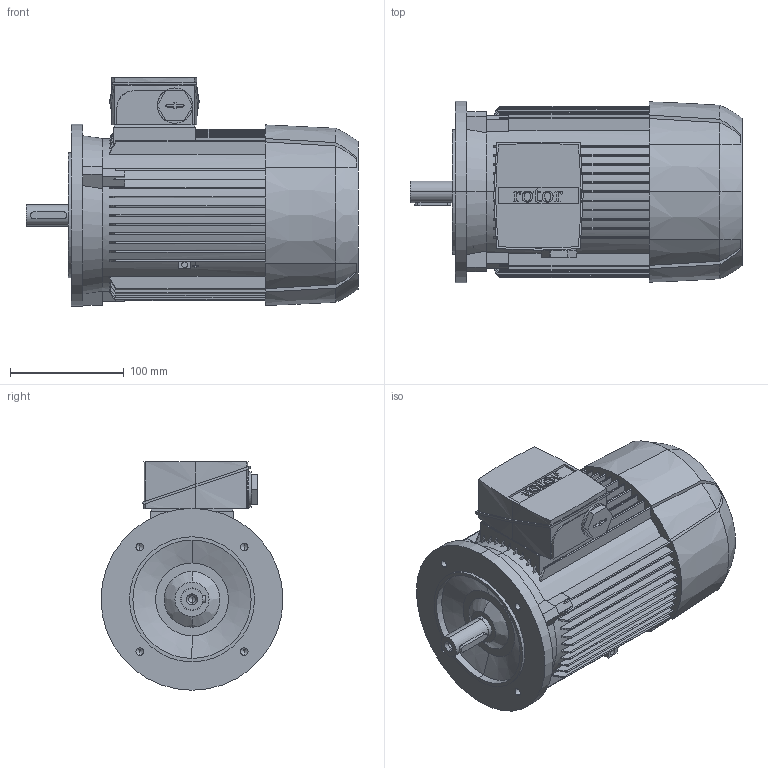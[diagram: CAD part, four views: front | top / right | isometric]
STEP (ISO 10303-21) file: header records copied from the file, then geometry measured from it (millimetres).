
FILE_DESCRIPTION (( 'STEP AP214' ), '1' );
FILE_NAME ('6RN80M06E13 IM3641-B.STEP', '2017-03-13T13:13:09', ( 'rotor' ), ( 'Hewlett-Packard Company' ), 'SwSTEP 2.0', 'SolidWorks 2015', '' );
FILE_SCHEMA (( 'AUTOMOTIVE_DESIGN' ));
Length unit declared in the file: millimetre
Products named in the file (1): 6RN80M06E13 IM3641-B
Bounding box: 292 x 160 x 201 mm (x, y, z)
Volume: 4384283.7 mm3; surface area: 279015.9 mm2
Topology: 1 solids, 1 shells, 560 faces, 1558 edges, 1023 vertices
Faces by surface type: plane 315, cylinder 117, bspline 99, cone 29
Entity records: 26118 total; most frequent: CARTESIAN_POINT 7166, ORIENTED_EDGE 3096, DIRECTION 2544, EDGE_CURVE 1548, VERTEX_POINT 1023, VECTOR 886, LINE 886, AXIS2_PLACEMENT_3D 829
